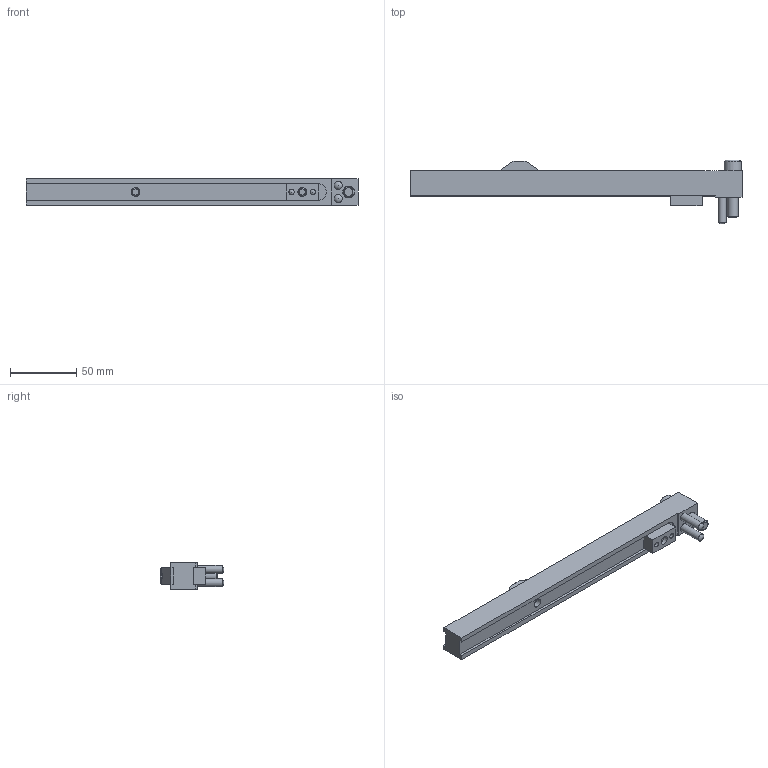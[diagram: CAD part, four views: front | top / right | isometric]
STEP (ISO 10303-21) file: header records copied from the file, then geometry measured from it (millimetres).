
FILE_DESCRIPTION(/* description */ ('STEP AP214'),/* implementation_level */ '2;1');
FILE_NAME(/* name */ 'KU12250',/* time_stamp */ '2024-12-19T07:57:37+01:00',/* author */ ('License CC BY-ND 4.0'),/* organization */ ('CADENAS'),/* preprocessor_version */ 'ST-DEVELOPER v19.3',/* originating_system */ 'PARTsolutions',/* authorisation */ ' ');
FILE_SCHEMA (('AUTOMOTIVE_DESIGN {1 0 10303 214 3 1 1}'));
Length unit declared in the file: millimetre
Products named in the file (10): KU12250; KU1225010; KU1225011; KU1225012; KU1225013; KU1225014; KU1225015; KU1225016; KU122508; KU122509
Assembly tree (10 placements, depth 2):
  KU12250
    KU1225010
    KU1225011
    KU1225012
    KU1225013
    KU1225014
    KU1225015
    KU1225016
    KU122508  x2
    KU122509
Bounding box: 250 x 48 x 20 mm (x, y, z)
Volume: 91080.8 mm3; surface area: 31888.3 mm2
Topology: 10 solids, 10 shells, 100 faces, 246 edges, 163 vertices
Faces by surface type: plane 61, cylinder 24, sphere 8, cone 7
Full cylindrical faces by diameter (mm): 4 x6, 6 x6, 6.6 x4, 8 x1, 9 x1, 10 x1, 11 x2, 13 x1
Entity records: 2823 total; most frequent: DIRECTION 456, CARTESIAN_POINT 438, ORIENTED_EDGE 370, EDGE_CURVE 185, AXIS2_PLACEMENT_3D 165, EDGE_LOOP 152, FACE_BOUND 152, VERTEX_POINT 139
